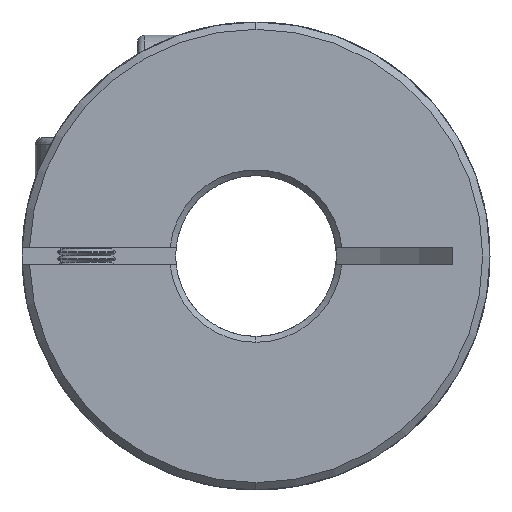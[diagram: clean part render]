
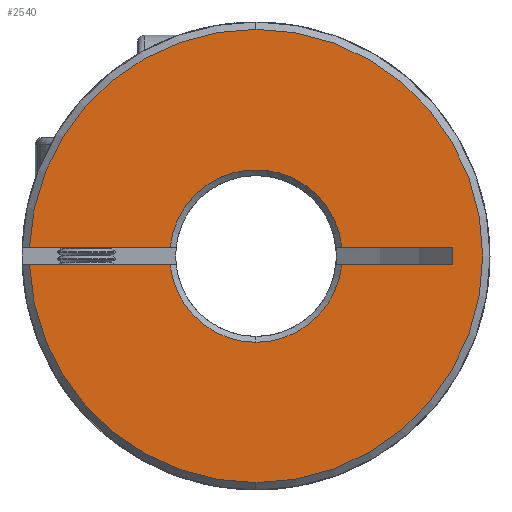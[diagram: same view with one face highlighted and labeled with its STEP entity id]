
A CAD part, front view. The second image highlights one B-rep face of the part: STEP entity #2540.
In plain terms, the highlighted planar face has unit normal (0, -1, 0).
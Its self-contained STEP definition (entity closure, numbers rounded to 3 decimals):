
#231 = VECTOR ( 'NONE', #8963, 1000. ) ;
#268 = ORIENTED_EDGE ( 'NONE', *, *, #8024, .T. ) ;
#650 = EDGE_CURVE ( 'NONE', #3041, #7034, #9777, .T. ) ;
#762 = CIRCLE ( 'NONE', #6021, 5.9 ) ;
#887 = VERTEX_POINT ( 'NONE', #4885 ) ;
#1036 = VERTEX_POINT ( 'NONE', #7653 ) ;
#1093 = ORIENTED_EDGE ( 'NONE', *, *, #5123, .T. ) ;
#1142 = CARTESIAN_POINT ( 'NONE',  ( -50., 0., 0.6 ) ) ;
#1332 = VECTOR ( 'NONE', #2985, 1000. ) ;
#1565 = VERTEX_POINT ( 'NONE', #8518 ) ;
#1634 = EDGE_CURVE ( 'NONE', #8789, #887, #4911, .T. ) ;
#1650 = FACE_OUTER_BOUND ( 'NONE', #7084, .T. ) ;
#1706 = CARTESIAN_POINT ( 'NONE',  ( 0., 0., 0. ) ) ;
#1816 = AXIS2_PLACEMENT_3D ( 'NONE', #8874, #5444, #3660 ) ;
#2054 = CARTESIAN_POINT ( 'NONE',  ( 5.869, 0., 0.6 ) ) ;
#2240 = EDGE_CURVE ( 'NONE', #2323, #3041, #9490, .T. ) ;
#2308 = CIRCLE ( 'NONE', #8246, 15.5 ) ;
#2323 = VERTEX_POINT ( 'NONE', #2054 ) ;
#2489 = VERTEX_POINT ( 'NONE', #9234 ) ;
#2540 = ADVANCED_FACE ( 'NONE', ( #1650 ), #3246, .F. ) ;
#2541 = CIRCLE ( 'NONE', #9110, 15.5 ) ;
#2734 = CARTESIAN_POINT ( 'NONE',  ( 13.436, 0., 0.6 ) ) ;
#2913 = CARTESIAN_POINT ( 'NONE',  ( 0., 0., 0. ) ) ;
#2931 = CIRCLE ( 'NONE', #3916, 15.5 ) ;
#2985 = DIRECTION ( 'NONE',  ( 1., 0., 0. ) ) ;
#3041 = VERTEX_POINT ( 'NONE', #2734 ) ;
#3092 = CIRCLE ( 'NONE', #1816, 5.9 ) ;
#3112 = VERTEX_POINT ( 'NONE', #3751 ) ;
#3246 = PLANE ( 'NONE',  #8549 ) ;
#3660 = DIRECTION ( 'NONE',  ( 0., 0., 1. ) ) ;
#3694 = ORIENTED_EDGE ( 'NONE', *, *, #1634, .T. ) ;
#3751 = CARTESIAN_POINT ( 'NONE',  ( -5.869, 0., 0.6 ) ) ;
#3811 = ORIENTED_EDGE ( 'NONE', *, *, #5125, .T. ) ;
#3840 = DIRECTION ( 'NONE',  ( 0., 1., 0. ) ) ;
#3860 = ORIENTED_EDGE ( 'NONE', *, *, #8662, .F. ) ;
#3916 = AXIS2_PLACEMENT_3D ( 'NONE', #2913, #6396, #7279 ) ;
#3954 = DIRECTION ( 'NONE',  ( 0., 0., 1. ) ) ;
#4015 = CARTESIAN_POINT ( 'NONE',  ( -50., 0., -0.6 ) ) ;
#4053 = ORIENTED_EDGE ( 'NONE', *, *, #650, .T. ) ;
#4244 = CARTESIAN_POINT ( 'NONE',  ( 0., 0., 0. ) ) ;
#4252 = DIRECTION ( 'NONE',  ( 0., 0., 1. ) ) ;
#4635 = DIRECTION ( 'NONE',  ( 0., 0., -1. ) ) ;
#4885 = CARTESIAN_POINT ( 'NONE',  ( 0., 0., -5.9 ) ) ;
#4911 = CIRCLE ( 'NONE', #10400, 5.9 ) ;
#5122 = CARTESIAN_POINT ( 'NONE',  ( 13.436, 0., -0.6 ) ) ;
#5123 = EDGE_CURVE ( 'NONE', #1565, #6557, #2931, .T. ) ;
#5125 = EDGE_CURVE ( 'NONE', #887, #2489, #762, .T. ) ;
#5164 = CARTESIAN_POINT ( 'NONE',  ( -15.488, 0., 0.6 ) ) ;
#5228 = ORIENTED_EDGE ( 'NONE', *, *, #9895, .F. ) ;
#5444 = DIRECTION ( 'NONE',  ( 0., 1., 0. ) ) ;
#5548 = CARTESIAN_POINT ( 'NONE',  ( -50., 0., -0.6 ) ) ;
#5631 = CARTESIAN_POINT ( 'NONE',  ( 0., 0., 0. ) ) ;
#5674 = EDGE_CURVE ( 'NONE', #8905, #3112, #8732, .T. ) ;
#6021 = AXIS2_PLACEMENT_3D ( 'NONE', #8129, #3840, #6327 ) ;
#6327 = DIRECTION ( 'NONE',  ( 0., 0., 1. ) ) ;
#6396 = DIRECTION ( 'NONE',  ( 0., -1., 0. ) ) ;
#6512 = VECTOR ( 'NONE', #7178, 1000. ) ;
#6557 = VERTEX_POINT ( 'NONE', #9453 ) ;
#6745 = ORIENTED_EDGE ( 'NONE', *, *, #5674, .T. ) ;
#6784 = DIRECTION ( 'NONE',  ( 0., 1., 0. ) ) ;
#7029 = DIRECTION ( 'NONE',  ( 0., 1., 0. ) ) ;
#7034 = VERTEX_POINT ( 'NONE', #5122 ) ;
#7084 = EDGE_LOOP ( 'NONE', ( #5228, #268, #1093, #9140, #6745, #9762, #11109, #4053, #3860, #3694, #3811 ) ) ;
#7173 = LINE ( 'NONE', #4015, #7440 ) ;
#7178 = DIRECTION ( 'NONE',  ( 1., 0., 0. ) ) ;
#7205 = CARTESIAN_POINT ( 'NONE',  ( 13.436, 0., -0.6 ) ) ;
#7237 = CARTESIAN_POINT ( 'NONE',  ( -50., 0., 0.6 ) ) ;
#7279 = DIRECTION ( 'NONE',  ( 0., 0., 1. ) ) ;
#7440 = VECTOR ( 'NONE', #8411, 1000. ) ;
#7653 = CARTESIAN_POINT ( 'NONE',  ( -15.488, 0., -0.6 ) ) ;
#7835 = DIRECTION ( 'NONE',  ( 0., 0., 1. ) ) ;
#8024 = EDGE_CURVE ( 'NONE', #1036, #1565, #2308, .T. ) ;
#8129 = CARTESIAN_POINT ( 'NONE',  ( 0., 0., 0. ) ) ;
#8246 = AXIS2_PLACEMENT_3D ( 'NONE', #4244, #9418, #10283 ) ;
#8274 = DIRECTION ( 'NONE',  ( 0., -1., 0. ) ) ;
#8411 = DIRECTION ( 'NONE',  ( 1., 0., 0. ) ) ;
#8518 = CARTESIAN_POINT ( 'NONE',  ( 0., 0., -15.5 ) ) ;
#8549 = AXIS2_PLACEMENT_3D ( 'NONE', #8582, #6784, #4252 ) ;
#8582 = CARTESIAN_POINT ( 'NONE',  ( -50., 0., -18.413 ) ) ;
#8662 = EDGE_CURVE ( 'NONE', #8789, #7034, #7173, .T. ) ;
#8732 = LINE ( 'NONE', #7237, #231 ) ;
#8789 = VERTEX_POINT ( 'NONE', #11118 ) ;
#8874 = CARTESIAN_POINT ( 'NONE',  ( 0., 0., 0. ) ) ;
#8905 = VERTEX_POINT ( 'NONE', #5164 ) ;
#8963 = DIRECTION ( 'NONE',  ( 1., 0., 0. ) ) ;
#9110 = AXIS2_PLACEMENT_3D ( 'NONE', #5631, #8274, #3954 ) ;
#9140 = ORIENTED_EDGE ( 'NONE', *, *, #10756, .T. ) ;
#9234 = CARTESIAN_POINT ( 'NONE',  ( -5.869, 0., -0.6 ) ) ;
#9418 = DIRECTION ( 'NONE',  ( 0., -1., 0. ) ) ;
#9440 = LINE ( 'NONE', #5548, #1332 ) ;
#9453 = CARTESIAN_POINT ( 'NONE',  ( 0., 0., 15.5 ) ) ;
#9490 = LINE ( 'NONE', #1142, #6512 ) ;
#9762 = ORIENTED_EDGE ( 'NONE', *, *, #10644, .T. ) ;
#9777 = LINE ( 'NONE', #7205, #10995 ) ;
#9895 = EDGE_CURVE ( 'NONE', #1036, #2489, #9440, .T. ) ;
#10283 = DIRECTION ( 'NONE',  ( 0., 0., 1. ) ) ;
#10400 = AXIS2_PLACEMENT_3D ( 'NONE', #1706, #7029, #7835 ) ;
#10644 = EDGE_CURVE ( 'NONE', #3112, #2323, #3092, .T. ) ;
#10756 = EDGE_CURVE ( 'NONE', #6557, #8905, #2541, .T. ) ;
#10995 = VECTOR ( 'NONE', #4635, 1000. ) ;
#11109 = ORIENTED_EDGE ( 'NONE', *, *, #2240, .T. ) ;
#11118 = CARTESIAN_POINT ( 'NONE',  ( 5.869, 0., -0.6 ) ) ;
